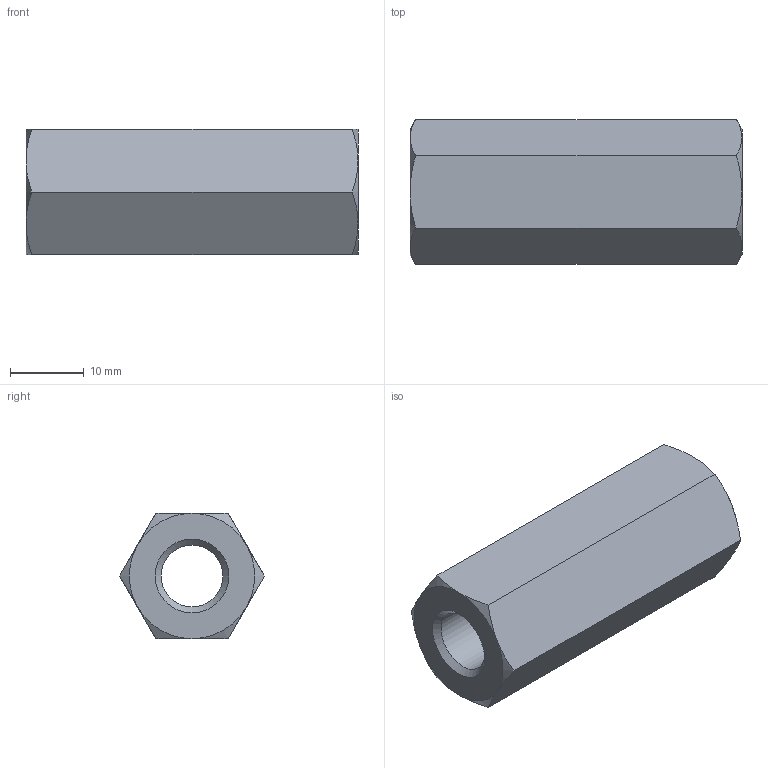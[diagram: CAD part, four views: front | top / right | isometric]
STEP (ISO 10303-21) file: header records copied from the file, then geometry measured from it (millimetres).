
FILE_DESCRIPTION( ( 'STEP AP203' ), '1' );
FILE_NAME( 'C:/Temp/Ganter_Step_05_03_2020/data/3_2/gn6220/gn6220_st/Spacer GN 6220-ST-M10-45-A.stp', '2020-03-13T05:42:37', ( 'License CC BY-ND 4.0' ), ( 'CADENAS' ), ' ', 'PARTsolutions', ' ' );
FILE_SCHEMA( ( 'CONFIG_CONTROL_DESIGN' ) );
Length unit declared in the file: millimetre
Products named in the file (1): _Spacer GN 6220-ST-M10-45-A
Bounding box: 45 x 19.63 x 17 mm (x, y, z)
Volume: 8754 mm3; surface area: 4177.8 mm2
Topology: 1 solids, 1 shells, 23 faces, 49 edges, 28 vertices
Faces by surface type: cone 14, plane 8, cylinder 1
Full cylindrical faces by diameter (mm): 8.376 x1
Entity records: 728 total; most frequent: CARTESIAN_POINT 234, ORIENTED_EDGE 92, DIRECTION 86, EDGE_CURVE 46, AXIS2_PLACEMENT_3D 40, EDGE_LOOP 28, VERTEX_POINT 28, FACE_OUTER_BOUND 24
